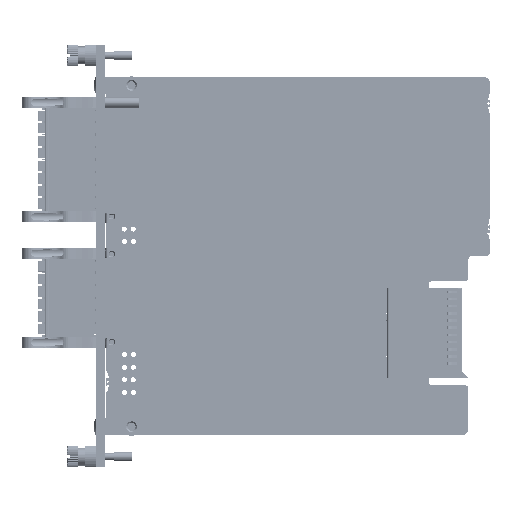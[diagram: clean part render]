
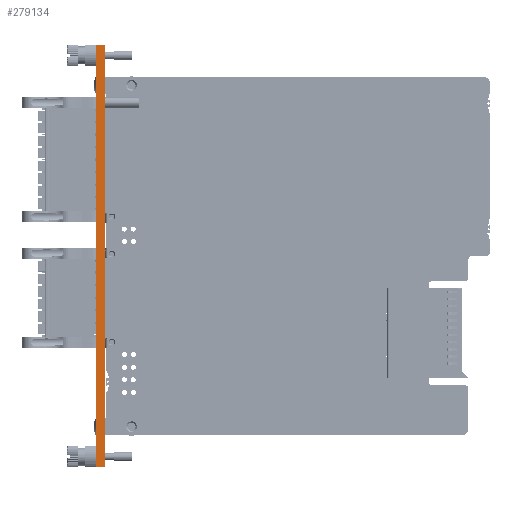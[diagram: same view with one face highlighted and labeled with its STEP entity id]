
A CAD part, top view. The second image highlights one B-rep face of the part: STEP entity #279134.
In plain terms, the highlighted planar face has unit normal (0, 0, 1).
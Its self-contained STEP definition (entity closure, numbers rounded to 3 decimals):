
#24039=FACE_OUTER_BOUND('',#38415,.T.);
#38415=EDGE_LOOP('',(#209853,#209854,#209855,#209856));
#60599=LINE('',#467055,#89244);
#60621=LINE('',#467123,#89266);
#60669=LINE('',#467249,#89314);
#60670=LINE('',#467251,#89315);
#89244=VECTOR('',#346331,10.);
#89266=VECTOR('',#346387,10.);
#89314=VECTOR('',#346525,10.);
#89315=VECTOR('',#346528,10.);
#116935=VERTEX_POINT('',#467052);
#116936=VERTEX_POINT('',#467054);
#116962=VERTEX_POINT('',#467116);
#116965=VERTEX_POINT('',#467121);
#150035=EDGE_CURVE('',#116935,#116936,#60599,.T.);
#150071=EDGE_CURVE('',#116965,#116962,#60621,.T.);
#150134=EDGE_CURVE('',#116965,#116936,#60669,.T.);
#150135=EDGE_CURVE('',#116962,#116935,#60670,.T.);
#209853=ORIENTED_EDGE('',*,*,#150071,.F.);
#209854=ORIENTED_EDGE('',*,*,#150134,.T.);
#209855=ORIENTED_EDGE('',*,*,#150035,.F.);
#209856=ORIENTED_EDGE('',*,*,#150135,.F.);
#253497=PLANE('',#297529);
#279134=ADVANCED_FACE('',(#24039),#253497,.T.);
#297529=AXIS2_PLACEMENT_3D('',#467250,#346526,#346527);
#346331=DIRECTION('',(0.,1.,0.));
#346387=DIRECTION('',(0.,-1.,0.));
#346525=DIRECTION('',(-1.,0.,0.));
#346526=DIRECTION('center_axis',(0.,0.,
1.));
#346527=DIRECTION('ref_axis',(0.,1.,0.));
#346528=DIRECTION('',(-1.,0.,0.));
#467052=CARTESIAN_POINT('',(-56.45,-58.925,20.195));
#467054=CARTESIAN_POINT('',(-56.45,58.925,20.195));
#467055=CARTESIAN_POINT('',(-56.45,58.925,20.195));
#467116=CARTESIAN_POINT('',(-53.95,-58.925,20.195));
#467121=CARTESIAN_POINT('',(-53.95,58.925,20.195));
#467123=CARTESIAN_POINT('',(-53.95,58.925,20.195));
#467249=CARTESIAN_POINT('',(-53.95,58.925,20.195));
#467250=CARTESIAN_POINT('Origin',(-53.95,-58.925,20.195));
#467251=CARTESIAN_POINT('',(-53.95,-58.925,20.195));
